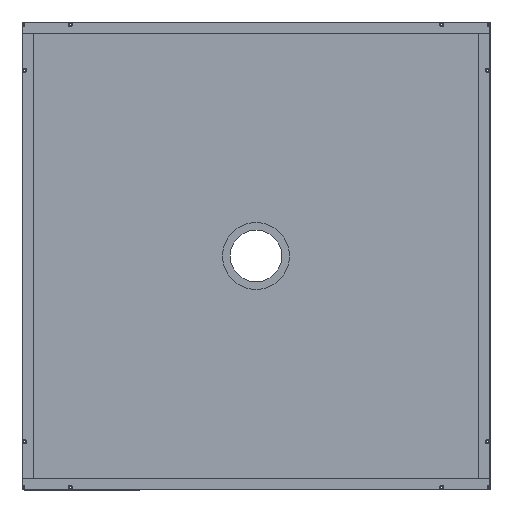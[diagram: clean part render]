
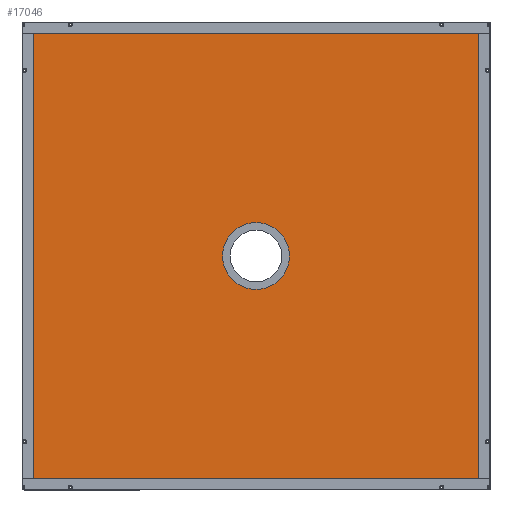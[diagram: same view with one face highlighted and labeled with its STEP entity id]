
A CAD part, left-side view. The second image highlights one B-rep face of the part: STEP entity #17046.
In plain terms, the highlighted planar face has unit normal (-1, 0, 0) as drawn and (0, 0, -1) by its records, which use the part's own axes.
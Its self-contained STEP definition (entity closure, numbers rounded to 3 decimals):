
#814 = CARTESIAN_POINT ( 'NONE',  ( 304.75, -304.75, -1. ) ) ;
#1008 = CARTESIAN_POINT ( 'NONE',  ( -304.75, -304.75, -1. ) ) ;
#1153 = AXIS2_PLACEMENT_3D ( 'NONE', #3210, #24026, #27277 ) ;
#2454 = FACE_OUTER_BOUND ( 'NONE', #26145, .T. ) ;
#2939 = CIRCLE ( 'NONE', #23804, 42.5 ) ;
#3210 = CARTESIAN_POINT ( 'NONE',  ( 0., 0., -1. ) ) ;
#3350 = CARTESIAN_POINT ( 'NONE',  ( -304.75, -304.75, -1. ) ) ;
#3560 = CARTESIAN_POINT ( 'NONE',  ( -304.75, 304.75, -1. ) ) ;
#4283 = EDGE_CURVE ( 'NONE', #17966, #5157, #11888, .T. ) ;
#5157 = VERTEX_POINT ( 'NONE', #3560 ) ;
#5200 = CARTESIAN_POINT ( 'NONE',  ( 0., 0., -1. ) ) ;
#5727 = EDGE_CURVE ( 'NONE', #5157, #32981, #7245, .T. ) ;
#5924 = EDGE_CURVE ( 'NONE', #10461, #23920, #2939, .T. ) ;
#6338 = VERTEX_POINT ( 'NONE', #814 ) ;
#6623 = EDGE_CURVE ( 'NONE', #6338, #17966, #23336, .T. ) ;
#7069 = DIRECTION ( 'NONE',  ( 0., -1., 0. ) ) ;
#7245 = LINE ( 'NONE', #17911, #18846 ) ;
#7427 = ORIENTED_EDGE ( 'NONE', *, *, #4283, .F. ) ;
#7896 = CARTESIAN_POINT ( 'NONE',  ( 42.5, 0., -1. ) ) ;
#8253 = DIRECTION ( 'NONE',  ( -1., 0., 0. ) ) ;
#8759 = DIRECTION ( 'NONE',  ( 1., 0., 0. ) ) ;
#10260 = DIRECTION ( 'NONE',  ( 0., 1., 0. ) ) ;
#10399 = ORIENTED_EDGE ( 'NONE', *, *, #5924, .F. ) ;
#10461 = VERTEX_POINT ( 'NONE', #28881 ) ;
#11233 = DIRECTION ( 'NONE',  ( -1., 0., 0. ) ) ;
#11888 = LINE ( 'NONE', #24466, #32699 ) ;
#13874 = EDGE_CURVE ( 'NONE', #23920, #10461, #19831, .T. ) ;
#15526 = DIRECTION ( 'NONE',  ( -1., 0., 0. ) ) ;
#15740 = CARTESIAN_POINT ( 'NONE',  ( 304.75, 304.75, -1. ) ) ;
#17046 = ADVANCED_FACE ( 'NONE', ( #31698, #2454 ), #29288, .T. ) ;
#17585 = ORIENTED_EDGE ( 'NONE', *, *, #13874, .F. ) ;
#17911 = CARTESIAN_POINT ( 'NONE',  ( -304.75, -304.75, -1. ) ) ;
#17966 = VERTEX_POINT ( 'NONE', #15740 ) ;
#18582 = CARTESIAN_POINT ( 'NONE',  ( 0., 0., -1. ) ) ;
#18604 = DIRECTION ( 'NONE',  ( 0., 0., -1. ) ) ;
#18747 = DIRECTION ( 'NONE',  ( 0., 0., -1. ) ) ;
#18846 = VECTOR ( 'NONE', #7069, 1000. ) ;
#19831 = CIRCLE ( 'NONE', #1153, 42.5 ) ;
#20904 = CARTESIAN_POINT ( 'NONE',  ( 304.75, -304.75, -1. ) ) ;
#22558 = ORIENTED_EDGE ( 'NONE', *, *, #32232, .F. ) ;
#23336 = LINE ( 'NONE', #20904, #25441 ) ;
#23804 = AXIS2_PLACEMENT_3D ( 'NONE', #18582, #18747, #8253 ) ;
#23920 = VERTEX_POINT ( 'NONE', #7896 ) ;
#24026 = DIRECTION ( 'NONE',  ( 0., 0., -1. ) ) ;
#24466 = CARTESIAN_POINT ( 'NONE',  ( -304.75, 304.75, -1. ) ) ;
#25375 = AXIS2_PLACEMENT_3D ( 'NONE', #5200, #18604, #15526 ) ;
#25438 = VECTOR ( 'NONE', #8759, 1000. ) ;
#25441 = VECTOR ( 'NONE', #10260, 1000. ) ;
#26145 = EDGE_LOOP ( 'NONE', ( #26316, #22558, #32021, #7427 ) ) ;
#26316 = ORIENTED_EDGE ( 'NONE', *, *, #6623, .F. ) ;
#27277 = DIRECTION ( 'NONE',  ( -1., 0., 0. ) ) ;
#28881 = CARTESIAN_POINT ( 'NONE',  ( -42.5, 0., -1. ) ) ;
#29128 = EDGE_LOOP ( 'NONE', ( #10399, #17585 ) ) ;
#29288 = PLANE ( 'NONE',  #25375 ) ;
#31698 = FACE_BOUND ( 'NONE', #29128, .T. ) ;
#32021 = ORIENTED_EDGE ( 'NONE', *, *, #5727, .F. ) ;
#32232 = EDGE_CURVE ( 'NONE', #32981, #6338, #32343, .T. ) ;
#32343 = LINE ( 'NONE', #1008, #25438 ) ;
#32699 = VECTOR ( 'NONE', #11233, 1000. ) ;
#32981 = VERTEX_POINT ( 'NONE', #3350 ) ;
